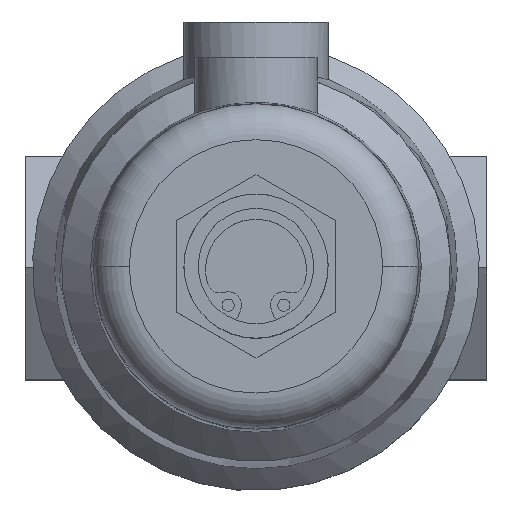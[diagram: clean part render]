
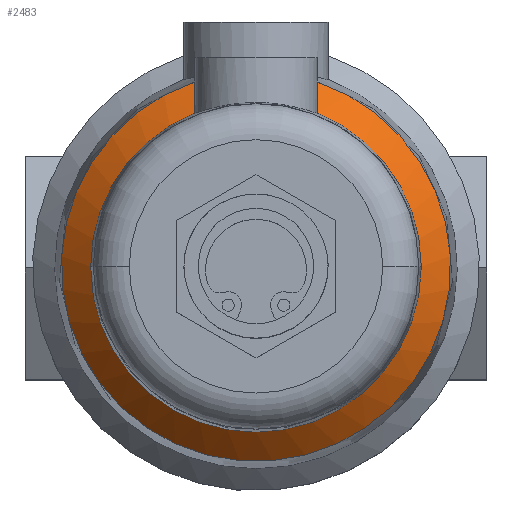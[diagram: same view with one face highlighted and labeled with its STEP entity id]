
A CAD part, top view. The second image highlights one B-rep face of the part: STEP entity #2483.
In plain terms, the highlighted conical face has half-angle 45 degrees and reference radius 24.967 mm.
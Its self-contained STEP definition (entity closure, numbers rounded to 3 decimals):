
#130=CARTESIAN_POINT('',(-8.5,25.627,114.5));
#132=CARTESIAN_POINT('',(8.5,25.627,114.5));
#198=CARTESIAN_POINT('',(8.5,21.301,118.566));
#204=CARTESIAN_POINT('',(0.,0.,118.566));
#205=DIRECTION('',(0.,0.,-1.));
#206=DIRECTION('',(0.371,0.929,0.));
#207=AXIS2_PLACEMENT_3D('',#204,#205,#206);
#214=CARTESIAN_POINT('',(0.,0.,118.566));
#215=DIRECTION('',(0.,0.,-1.));
#216=DIRECTION('',(-1.,0.,0.));
#217=AXIS2_PLACEMENT_3D('',#214,#215,#216);
#223=CARTESIAN_POINT('',(-8.5,21.301,118.566));
#225=CARTESIAN_POINT('',(0.,0.,114.5));
#226=DIRECTION('',(0.,0.,-1.));
#227=DIRECTION('',(0.315,0.949,0.));
#228=AXIS2_PLACEMENT_3D('',#225,#226,#227);
#230=CARTESIAN_POINT('',(-8.5,25.627,114.5));
#231=CARTESIAN_POINT('',(-8.5,25.127,114.975));
#232=CARTESIAN_POINT('',(-8.5,24.139,115.909));
#233=CARTESIAN_POINT('',(-8.5,22.697,117.265));
#234=CARTESIAN_POINT('',(-8.5,21.762,118.137));
#235=CARTESIAN_POINT('',(-8.5,21.301,118.566));
#237=CARTESIAN_POINT('',(8.5,21.301,118.566));
#238=CARTESIAN_POINT('',(8.5,21.761,118.138));
#239=CARTESIAN_POINT('',(8.5,22.695,117.267));
#240=CARTESIAN_POINT('',(8.5,24.137,115.911));
#241=CARTESIAN_POINT('',(8.5,25.126,114.976));
#242=CARTESIAN_POINT('',(8.5,25.627,114.5));
#244=CARTESIAN_POINT('',(0.,0.,118.566));
#245=DIRECTION('',(0.,0.,-1.));
#246=DIRECTION('',(1.,0.,0.));
#247=AXIS2_PLACEMENT_3D('',#244,#245,#246);
#2018=CARTESIAN_POINT('',(22.934,0.,118.566));
#2019=CARTESIAN_POINT('',(-22.934,0.,118.566));
#2020=VERTEX_POINT('',#2018);
#2021=VERTEX_POINT('',#2019);
#2140=VERTEX_POINT('',#132);
#2143=VERTEX_POINT('',#130);
#2146=VERTEX_POINT('',#198);
#2147=VERTEX_POINT('',#223);
#2469=CARTESIAN_POINT('',(0.,0.,116.533));
#2470=DIRECTION('',(0.,0.,-1.));
#2471=DIRECTION('',(1.,0.,0.));
#2472=AXIS2_PLACEMENT_3D('',#2469,#2470,#2471);
#2473=CONICAL_SURFACE('',#2472,24.967,45.);
#2474=ORIENTED_EDGE('',*,*,#2398,.T.);
#2475=ORIENTED_EDGE('',*,*,#2430,.T.);
#2476=ORIENTED_EDGE('',*,*,#2463,.F.);
#2478=ORIENTED_EDGE('',*,*,#2477,.F.);
#2479=ORIENTED_EDGE('',*,*,#2455,.F.);
#2480=ORIENTED_EDGE('',*,*,#2376,.T.);
#2481=EDGE_LOOP('',(#2474,#2475,#2476,#2478,#2479,#2480));
#2482=FACE_OUTER_BOUND('',#2481,.F.);
#2483=ADVANCED_FACE('',(#2482),#2473,.T.);
#208=CIRCLE('',#207,22.934);
#218=CIRCLE('',#217,22.934);
#229=CIRCLE('',#228,27.);
#236=B_SPLINE_CURVE_WITH_KNOTS('',3,(#230,#231,#232,#233,#234,#235),
.UNSPECIFIED.,.F.,.F.,(4,1,1,4),(0.,0.333,0.667,1.),
.UNSPECIFIED.);
#243=B_SPLINE_CURVE_WITH_KNOTS('',3,(#237,#238,#239,#240,#241,#242),
.UNSPECIFIED.,.F.,.F.,(4,1,1,4),(0.,0.333,0.667,1.),
.UNSPECIFIED.);
#248=CIRCLE('',#247,22.934);
#2376=EDGE_CURVE('',#2146,#2140,#243,.T.);
#2398=EDGE_CURVE('',#2140,#2143,#229,.T.);
#2430=EDGE_CURVE('',#2143,#2147,#236,.T.);
#2455=EDGE_CURVE('',#2146,#2020,#208,.T.);
#2463=EDGE_CURVE('',#2021,#2147,#218,.T.);
#2477=EDGE_CURVE('',#2020,#2021,#248,.T.);
